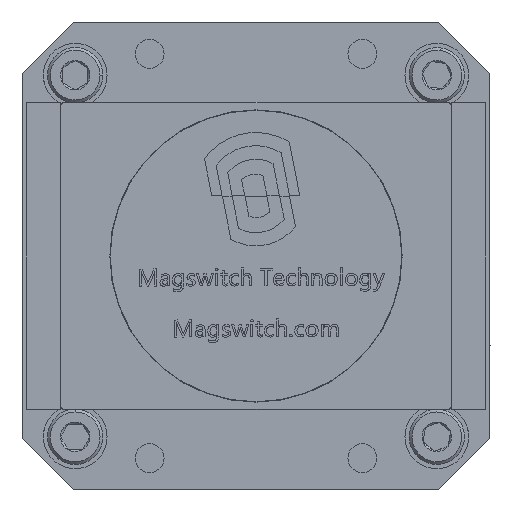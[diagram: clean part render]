
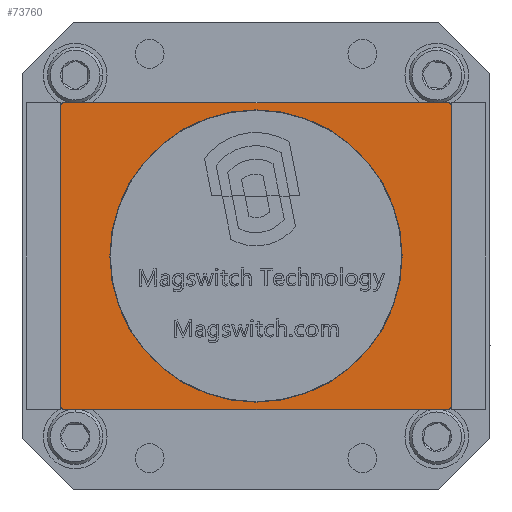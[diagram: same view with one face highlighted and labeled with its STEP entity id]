
A CAD part, front view. The second image highlights one B-rep face of the part: STEP entity #73760.
In plain terms, the highlighted planar face has unit normal (0, -1, 0).
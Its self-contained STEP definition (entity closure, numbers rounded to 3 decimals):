
#2184 = LINE ( 'NONE', #92706, #111106 ) ;
#3141 = CIRCLE ( 'NONE', #125917, 34.35 ) ;
#4785 = DIRECTION ( 'NONE',  ( 0., 0., 1. ) ) ;
#5686 = DIRECTION ( 'NONE',  ( 0., 0., 1. ) ) ;
#6190 = VERTEX_POINT ( 'NONE', #40901 ) ;
#7072 = EDGE_CURVE ( 'NONE', #6190, #105566, #114927, .T. ) ;
#8178 = DIRECTION ( 'NONE',  ( 0., -1., 0. ) ) ;
#9187 = CARTESIAN_POINT ( 'NONE',  ( 0., 0., 34.35 ) ) ;
#12158 = DIRECTION ( 'NONE',  ( 0., 1., 0. ) ) ;
#12236 = ORIENTED_EDGE ( 'NONE', *, *, #44715, .T. ) ;
#12438 = CIRCLE ( 'NONE', #85280, 0.9 ) ;
#15407 = CARTESIAN_POINT ( 'NONE',  ( -46., 0., 36.15 ) ) ;
#23222 = DIRECTION ( 'NONE',  ( 0., 0., 1. ) ) ;
#27519 = EDGE_LOOP ( 'NONE', ( #45774, #57995, #114229, #86675, #12236, #112184, #125442, #127103 ) ) ;
#27632 = EDGE_CURVE ( 'NONE', #53980, #6190, #43971, .T. ) ;
#29118 = CARTESIAN_POINT ( 'NONE',  ( 0., 0., -34.35 ) ) ;
#31432 = VERTEX_POINT ( 'NONE', #95826 ) ;
#32885 = VECTOR ( 'NONE', #62538, 1000. ) ;
#36200 = CARTESIAN_POINT ( 'NONE',  ( -46., 0., -36.05 ) ) ;
#36215 = DIRECTION ( 'NONE',  ( 0., 1., 0. ) ) ;
#36712 = DIRECTION ( 'NONE',  ( 0., -1., 0. ) ) ;
#37698 = EDGE_CURVE ( 'NONE', #121823, #63549, #3141, .T. ) ;
#38359 = DIRECTION ( 'NONE',  ( 0., 0., -1. ) ) ;
#40901 = CARTESIAN_POINT ( 'NONE',  ( -45.9, 0., 35.15 ) ) ;
#43971 = CIRCLE ( 'NONE', #120931, 0.9 ) ;
#44715 = EDGE_CURVE ( 'NONE', #44970, #83245, #80961, .T. ) ;
#44970 = VERTEX_POINT ( 'NONE', #64528 ) ;
#45774 = ORIENTED_EDGE ( 'NONE', *, *, #101628, .T. ) ;
#48411 = DIRECTION ( 'NONE',  ( 0., 0., 1. ) ) ;
#49110 = CIRCLE ( 'NONE', #128180, 34.35 ) ;
#50247 = EDGE_CURVE ( 'NONE', #83245, #53980, #2184, .T. ) ;
#52406 = VECTOR ( 'NONE', #38359, 1000. ) ;
#52741 = LINE ( 'NONE', #112081, #32885 ) ;
#53980 = VERTEX_POINT ( 'NONE', #80528 ) ;
#57995 = ORIENTED_EDGE ( 'NONE', *, *, #96569, .T. ) ;
#58344 = LINE ( 'NONE', #36200, #128315 ) ;
#61158 = CARTESIAN_POINT ( 'NONE',  ( 45., 0., 36.05 ) ) ;
#61520 = DIRECTION ( 'NONE',  ( 0., 0., 1. ) ) ;
#61932 = EDGE_CURVE ( 'NONE', #99312, #44970, #52741, .T. ) ;
#62538 = DIRECTION ( 'NONE',  ( 0., 0., 1. ) ) ;
#62779 = EDGE_CURVE ( 'NONE', #31432, #99312, #70503, .T. ) ;
#63549 = VERTEX_POINT ( 'NONE', #9187 ) ;
#64528 = CARTESIAN_POINT ( 'NONE',  ( 45.9, 0., 35.15 ) ) ;
#70503 = CIRCLE ( 'NONE', #74693, 0.9 ) ;
#70561 = AXIS2_PLACEMENT_3D ( 'NONE', #112801, #82798, #91911 ) ;
#73670 = ORIENTED_EDGE ( 'NONE', *, *, #37698, .T. ) ;
#73760 = ADVANCED_FACE ( 'NONE', ( #123576, #75357 ), #74055, .F. ) ;
#74055 = PLANE ( 'NONE',  #127019 ) ;
#74693 = AXIS2_PLACEMENT_3D ( 'NONE', #126635, #36712, #48411 ) ;
#75111 = CARTESIAN_POINT ( 'NONE',  ( 0., 0., 0. ) ) ;
#75357 = FACE_BOUND ( 'NONE', #121551, .T. ) ;
#77463 = CARTESIAN_POINT ( 'NONE',  ( -45., 0., -36.05 ) ) ;
#80528 = CARTESIAN_POINT ( 'NONE',  ( -45., 0., 36.05 ) ) ;
#80961 = CIRCLE ( 'NONE', #70561, 0.9 ) ;
#82798 = DIRECTION ( 'NONE',  ( 0., -1., 0. ) ) ;
#83245 = VERTEX_POINT ( 'NONE', #61158 ) ;
#83617 = DIRECTION ( 'NONE',  ( 0., 1., 0. ) ) ;
#85280 = AXIS2_PLACEMENT_3D ( 'NONE', #89544, #100614, #61520 ) ;
#86675 = ORIENTED_EDGE ( 'NONE', *, *, #61932, .T. ) ;
#89544 = CARTESIAN_POINT ( 'NONE',  ( -45., 0., -35.15 ) ) ;
#90116 = DIRECTION ( 'NONE',  ( -1., 0., 0. ) ) ;
#91911 = DIRECTION ( 'NONE',  ( 0., 0., 1. ) ) ;
#92706 = CARTESIAN_POINT ( 'NONE',  ( -46., 0., 36.05 ) ) ;
#95781 = ORIENTED_EDGE ( 'NONE', *, *, #115877, .T. ) ;
#95826 = CARTESIAN_POINT ( 'NONE',  ( 45., 0., -36.05 ) ) ;
#96569 = EDGE_CURVE ( 'NONE', #102721, #31432, #58344, .T. ) ;
#99312 = VERTEX_POINT ( 'NONE', #104080 ) ;
#100614 = DIRECTION ( 'NONE',  ( 0., -1., 0. ) ) ;
#100775 = CARTESIAN_POINT ( 'NONE',  ( 0., 0., 0. ) ) ;
#101628 = EDGE_CURVE ( 'NONE', #105566, #102721, #12438, .T. ) ;
#102721 = VERTEX_POINT ( 'NONE', #77463 ) ;
#104080 = CARTESIAN_POINT ( 'NONE',  ( 45.9, 0., -35.15 ) ) ;
#105566 = VERTEX_POINT ( 'NONE', #121599 ) ;
#111106 = VECTOR ( 'NONE', #90116, 1000. ) ;
#112081 = CARTESIAN_POINT ( 'NONE',  ( 45.9, 0., 36.15 ) ) ;
#112184 = ORIENTED_EDGE ( 'NONE', *, *, #50247, .T. ) ;
#112801 = CARTESIAN_POINT ( 'NONE',  ( 45., 0., 35.15 ) ) ;
#114229 = ORIENTED_EDGE ( 'NONE', *, *, #62779, .T. ) ;
#114927 = LINE ( 'NONE', #117941, #52406 ) ;
#115877 = EDGE_CURVE ( 'NONE', #63549, #121823, #49110, .T. ) ;
#117941 = CARTESIAN_POINT ( 'NONE',  ( -45.9, 0., 36.15 ) ) ;
#120931 = AXIS2_PLACEMENT_3D ( 'NONE', #128017, #8178, #126116 ) ;
#121551 = EDGE_LOOP ( 'NONE', ( #73670, #95781 ) ) ;
#121599 = CARTESIAN_POINT ( 'NONE',  ( -45.9, 0., -35.15 ) ) ;
#121823 = VERTEX_POINT ( 'NONE', #29118 ) ;
#123576 = FACE_OUTER_BOUND ( 'NONE', #27519, .T. ) ;
#125442 = ORIENTED_EDGE ( 'NONE', *, *, #27632, .T. ) ;
#125917 = AXIS2_PLACEMENT_3D ( 'NONE', #75111, #83617, #4785 ) ;
#126116 = DIRECTION ( 'NONE',  ( 0., 0., 1. ) ) ;
#126635 = CARTESIAN_POINT ( 'NONE',  ( 45., 0., -35.15 ) ) ;
#127019 = AXIS2_PLACEMENT_3D ( 'NONE', #15407, #36215, #5686 ) ;
#127103 = ORIENTED_EDGE ( 'NONE', *, *, #7072, .T. ) ;
#128017 = CARTESIAN_POINT ( 'NONE',  ( -45., 0., 35.15 ) ) ;
#128038 = DIRECTION ( 'NONE',  ( 1., 0., 0. ) ) ;
#128180 = AXIS2_PLACEMENT_3D ( 'NONE', #100775, #12158, #23222 ) ;
#128315 = VECTOR ( 'NONE', #128038, 1000. ) ;
